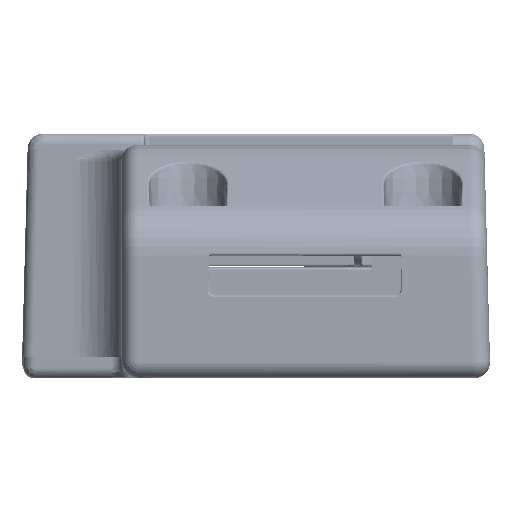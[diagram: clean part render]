
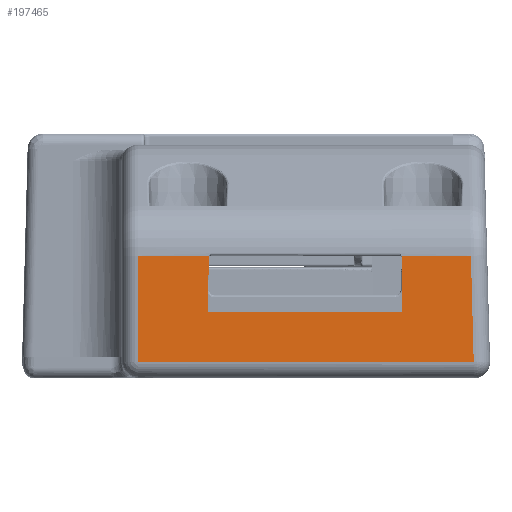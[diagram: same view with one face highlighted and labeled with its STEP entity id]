
A CAD part, front view. The second image highlights one B-rep face of the part: STEP entity #197465.
In plain terms, the highlighted planar face has unit normal (0, -1, 0.018).
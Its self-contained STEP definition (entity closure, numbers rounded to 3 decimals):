
#36232=DIRECTION('',(0.026,-0.017,-1.));
#36233=VECTOR('',#36232,9.762);
#36234=CARTESIAN_POINT('',(-13.262,19.634,
-26.014));
#36235=LINE('',#36234,#36233);
#36239=CARTESIAN_POINT('',(-37.348,19.634,
-26.014));
#36240=CARTESIAN_POINT('',(-37.355,19.634,
-26.03));
#36241=CARTESIAN_POINT('',(-37.368,19.633,
-26.061));
#36242=CARTESIAN_POINT('',(-37.379,19.632,
-26.108));
#36243=CARTESIAN_POINT('',(-37.382,19.632,
-26.138));
#36244=CARTESIAN_POINT('',(-37.382,19.632,
-26.153));
#36249=DIRECTION('',(1.,0.,0.));
#36250=VECTOR('',#36249,17.844);
#36251=CARTESIAN_POINT('',(-37.426,19.544,
-31.197));
#36252=LINE('',#36251,#36250);
#36256=DIRECTION('',(-0.009,0.017,1.));
#36257=VECTOR('',#36256,5.046);
#36258=CARTESIAN_POINT('',(-19.582,19.544,
-31.197));
#36259=LINE('',#36258,#36257);
#36263=CARTESIAN_POINT('',(-19.626,19.632,
-26.153));
#36264=CARTESIAN_POINT('',(-19.626,19.632,
-26.138));
#36265=CARTESIAN_POINT('',(-19.629,19.632,
-26.108));
#36266=CARTESIAN_POINT('',(-19.64,19.633,
-26.061));
#36267=CARTESIAN_POINT('',(-19.653,19.634,
-26.03));
#36268=CARTESIAN_POINT('',(-19.66,19.634,
-26.014));
#36280=DIRECTION('',(1.,0.,0.));
#36281=VECTOR('',#36280,30.872);
#36282=CARTESIAN_POINT('',(-43.879,19.464,
-35.771));
#36283=LINE('',#36282,#36281);
#42050=DIRECTION('',(-1.,0.,0.));
#42051=VECTOR('',#42050,6.398);
#42052=CARTESIAN_POINT('',(-13.262,19.634,
-26.014));
#42053=LINE('',#42052,#42051);
#42084=DIRECTION('',(-1.,0.,0.));
#42085=VECTOR('',#42084,6.532);
#42086=CARTESIAN_POINT('',(-37.348,19.634,
-26.014));
#42087=LINE('',#42086,#42085);
#50534=DIRECTION('',(0.009,0.017,1.));
#50535=VECTOR('',#50534,5.046);
#50536=CARTESIAN_POINT('',(-37.426,19.544,
-31.197));
#50537=LINE('',#50536,#50535);
#83519=DIRECTION('',(0.,-0.017,-1.));
#83520=VECTOR('',#83519,9.759);
#83521=CARTESIAN_POINT('',(-43.879,19.634,
-26.014));
#83522=LINE('',#83521,#83520);
#142479=CARTESIAN_POINT('',(-19.582,19.544,
-31.197));
#142480=VERTEX_POINT('',#142479);
#142481=CARTESIAN_POINT('',(-37.426,19.544,
-31.197));
#142482=VERTEX_POINT('',#142481);
#149149=CARTESIAN_POINT('',(-43.879,19.464,
-35.771));
#149150=VERTEX_POINT('',#149149);
#149151=CARTESIAN_POINT('',(-43.879,19.634,
-26.014));
#149152=VERTEX_POINT('',#149151);
#149526=CARTESIAN_POINT('',(-13.007,19.464,
-35.771));
#149527=VERTEX_POINT('',#149526);
#149530=CARTESIAN_POINT('',(-13.262,19.634,
-26.014));
#149531=VERTEX_POINT('',#149530);
#149532=CARTESIAN_POINT('',(-37.348,19.634,
-26.014));
#149533=VERTEX_POINT('',#149532);
#149534=VERTEX_POINT('',#36244);
#149535=CARTESIAN_POINT('',(-19.626,19.632,
-26.153));
#149536=VERTEX_POINT('',#149535);
#149537=VERTEX_POINT('',#36268);
#197440=CARTESIAN_POINT('',(-11.604,19.564,
-30.014));
#197441=DIRECTION('',(0.,-1.,0.017));
#197442=DIRECTION('',(0.,0.017,1.));
#197443=AXIS2_PLACEMENT_3D('',#197440,#197441,#197442);
#197444=PLANE('',#197443);
#197445=ORIENTED_EDGE('',*,*,#197431,.T.);
#197447=ORIENTED_EDGE('',*,*,#197446,.F.);
#197449=ORIENTED_EDGE('',*,*,#197448,.F.);
#197451=ORIENTED_EDGE('',*,*,#197450,.F.);
#197453=ORIENTED_EDGE('',*,*,#197452,.T.);
#197455=ORIENTED_EDGE('',*,*,#197454,.F.);
#197456=ORIENTED_EDGE('',*,*,#163549,.T.);
#197458=ORIENTED_EDGE('',*,*,#197457,.T.);
#197460=ORIENTED_EDGE('',*,*,#197459,.T.);
#197462=ORIENTED_EDGE('',*,*,#197461,.F.);
#197463=EDGE_LOOP('',(#197445,#197447,#197449,#197451,#197453,#197455,#197456,
#197458,#197460,#197462));
#197464=FACE_OUTER_BOUND('',#197463,.F.);
#36245=B_SPLINE_CURVE_WITH_KNOTS('',3,(#36239,#36240,#36241,#36242,#36243,
#36244),.UNSPECIFIED.,.F.,.F.,(4,1,1,4),(0.,0.333,
0.667,1.),.UNSPECIFIED.);
#36269=B_SPLINE_CURVE_WITH_KNOTS('',3,(#36263,#36264,#36265,#36266,#36267,
#36268),.UNSPECIFIED.,.F.,.F.,(4,1,1,4),(0.,0.333,
0.667,1.),.UNSPECIFIED.);
#163549=EDGE_CURVE('',#142482,#142480,#36252,.T.);
#197431=EDGE_CURVE('',#149531,#149527,#36235,.T.);
#197446=EDGE_CURVE('',#149150,#149527,#36283,.T.);
#197448=EDGE_CURVE('',#149152,#149150,#83522,.T.);
#197450=EDGE_CURVE('',#149533,#149152,#42087,.T.);
#197452=EDGE_CURVE('',#149533,#149534,#36245,.T.);
#197454=EDGE_CURVE('',#142482,#149534,#50537,.T.);
#197457=EDGE_CURVE('',#142480,#149536,#36259,.T.);
#197459=EDGE_CURVE('',#149536,#149537,#36269,.T.);
#197461=EDGE_CURVE('',#149531,#149537,#42053,.T.);
#197465=ADVANCED_FACE('',(#197464),#197444,.T.);
